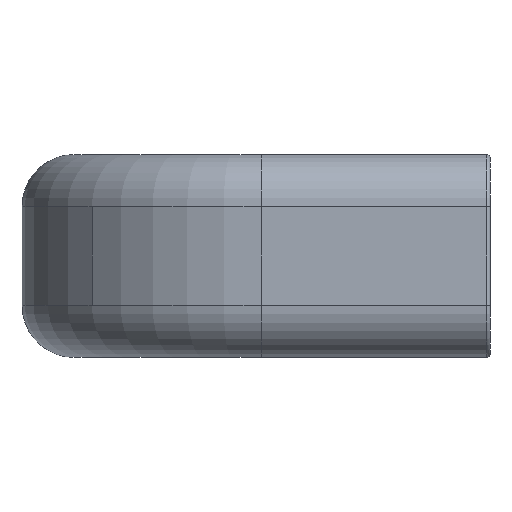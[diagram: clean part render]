
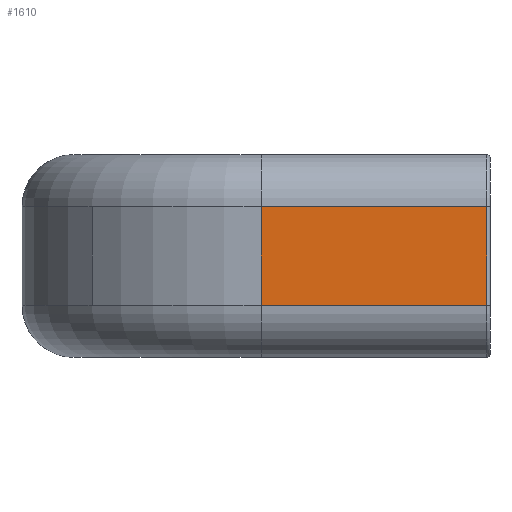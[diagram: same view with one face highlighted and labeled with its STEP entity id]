
A CAD part, left-side view. The second image highlights one B-rep face of the part: STEP entity #1610.
In plain terms, the highlighted planar face has unit normal (-1, 0, 0).
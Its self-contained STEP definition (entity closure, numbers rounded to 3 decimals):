
#372=CARTESIAN_POINT('',(-55.,0.3,-4.5));
#373=VERTEX_POINT('',#372);
#381=CARTESIAN_POINT('',(-55.0,22.,-4.5));
#382=VERTEX_POINT('',#381);
#383=CARTESIAN_POINT('',(-55.0,22.,-4.5));
#384=DIRECTION('',(0.0,-1.0,0.0));
#385=VECTOR('',#384,21.7);
#386=LINE('',#383,#385);
#387=EDGE_CURVE('',#382,#373,#386,.T.);
#461=CARTESIAN_POINT('',(-55.0,22.,5.));
#462=VERTEX_POINT('',#461);
#463=CARTESIAN_POINT('',(-55.0,22.,-4.5));
#464=DIRECTION('',(0.0,0.0,1.0));
#465=VECTOR('',#464,9.5);
#466=LINE('',#463,#465);
#467=EDGE_CURVE('',#382,#462,#466,.T.);
#1587=CARTESIAN_POINT('',(-55.0,-0.785,-4.975));
#1588=DIRECTION('',(1.0,0.0,0.0));
#1589=DIRECTION('',(0.0,0.0,-1.0));
#1590=AXIS2_PLACEMENT_3D('',#1587,#1588,#1589);
#1591=PLANE('',#1590);
#1592=ORIENTED_EDGE('',*,*,#387,.T.);
#1593=CARTESIAN_POINT('',(-55.,0.3,5.));
#1594=VERTEX_POINT('',#1593);
#1595=CARTESIAN_POINT('',(-55.,0.3,-4.5));
#1596=DIRECTION('',(0.0,0.0,1.0));
#1597=VECTOR('',#1596,9.5);
#1598=LINE('',#1595,#1597);
#1599=EDGE_CURVE('',#373,#1594,#1598,.T.);
#1600=ORIENTED_EDGE('',*,*,#1599,.T.);
#1601=CARTESIAN_POINT('',(-55.0,22.,5.));
#1602=DIRECTION('',(0.0,-1.0,0.0));
#1603=VECTOR('',#1602,21.7);
#1604=LINE('',#1601,#1603);
#1605=EDGE_CURVE('',#462,#1594,#1604,.T.);
#1606=ORIENTED_EDGE('',*,*,#1605,.F.);
#1607=ORIENTED_EDGE('',*,*,#467,.F.);
#1608=EDGE_LOOP('',(#1592,#1600,#1606,#1607));
#1609=FACE_OUTER_BOUND('',#1608,.T.);
#1610=ADVANCED_FACE('',(#1609),#1591,.F.);
